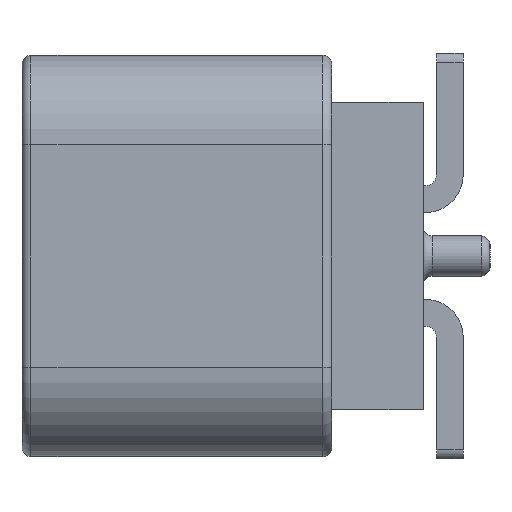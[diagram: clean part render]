
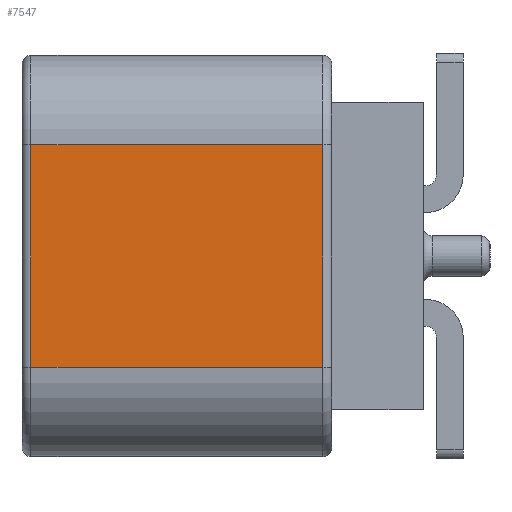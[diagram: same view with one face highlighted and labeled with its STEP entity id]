
A CAD part, left-side view. The second image highlights one B-rep face of the part: STEP entity #7547.
In plain terms, the highlighted planar face has unit normal (-1, 0, 0).
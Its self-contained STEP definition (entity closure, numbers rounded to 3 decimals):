
#1665 = CARTESIAN_POINT ( 'NONE',  ( -14.088, -2.852, 2.5 ) ) ;
#1998 = VERTEX_POINT ( 'NONE', #5291 ) ;
#3104 = VECTOR ( 'NONE', #7072, 1000. ) ;
#3201 = ORIENTED_EDGE ( 'NONE', *, *, #5689, .T. ) ;
#3366 = VERTEX_POINT ( 'NONE', #6232 ) ;
#4249 = VERTEX_POINT ( 'NONE', #1665 ) ;
#4866 = VECTOR ( 'NONE', #27140, 1000. ) ;
#5291 = CARTESIAN_POINT ( 'NONE',  ( -14.088, 3.698, -2.5 ) ) ;
#5689 = EDGE_CURVE ( 'NONE', #1998, #3366, #15160, .T. ) ;
#6232 = CARTESIAN_POINT ( 'NONE',  ( -14.088, -2.852, -2.5 ) ) ;
#6734 = PLANE ( 'NONE',  #21275 ) ;
#7072 = DIRECTION ( 'NONE',  ( 0., 0., -1. ) ) ;
#7547 = ADVANCED_FACE ( 'NONE', ( #25203 ), #6734, .F. ) ;
#9205 = DIRECTION ( 'NONE',  ( 1., 0., 0. ) ) ;
#10051 = LINE ( 'NONE', #18331, #3104 ) ;
#11743 = LINE ( 'NONE', #22650, #22075 ) ;
#13817 = CARTESIAN_POINT ( 'NONE',  ( -14.088, 3.698, 2.5 ) ) ;
#14133 = DIRECTION ( 'NONE',  ( 0., 1., 0. ) ) ;
#14184 = ORIENTED_EDGE ( 'NONE', *, *, #19338, .T. ) ;
#14923 = EDGE_CURVE ( 'NONE', #27784, #1998, #10051, .T. ) ;
#15160 = LINE ( 'NONE', #34303, #23544 ) ;
#16441 = LINE ( 'NONE', #24337, #4866 ) ;
#18331 = CARTESIAN_POINT ( 'NONE',  ( -14.088, 3.698, 4.5 ) ) ;
#19338 = EDGE_CURVE ( 'NONE', #4249, #27784, #16441, .T. ) ;
#21275 = AXIS2_PLACEMENT_3D ( 'NONE', #25038, #9205, #14133 ) ;
#22075 = VECTOR ( 'NONE', #30722, 1000. ) ;
#22318 = ORIENTED_EDGE ( 'NONE', *, *, #26497, .T. ) ;
#22650 = CARTESIAN_POINT ( 'NONE',  ( -14.088, -2.852, 4.5 ) ) ;
#22736 = EDGE_LOOP ( 'NONE', ( #3201, #22318, #14184, #33220 ) ) ;
#23544 = VECTOR ( 'NONE', #31491, 1000. ) ;
#24337 = CARTESIAN_POINT ( 'NONE',  ( -14.088, -3.052, 2.5 ) ) ;
#25038 = CARTESIAN_POINT ( 'NONE',  ( -14.088, -3.052, 4.5 ) ) ;
#25203 = FACE_OUTER_BOUND ( 'NONE', #22736, .T. ) ;
#26497 = EDGE_CURVE ( 'NONE', #3366, #4249, #11743, .T. ) ;
#27140 = DIRECTION ( 'NONE',  ( 0., 1., 0. ) ) ;
#27784 = VERTEX_POINT ( 'NONE', #13817 ) ;
#30722 = DIRECTION ( 'NONE',  ( 0., 0., 1. ) ) ;
#31491 = DIRECTION ( 'NONE',  ( 0., -1., 0. ) ) ;
#33220 = ORIENTED_EDGE ( 'NONE', *, *, #14923, .T. ) ;
#34303 = CARTESIAN_POINT ( 'NONE',  ( -14.088, -3.052, -2.5 ) ) ;
